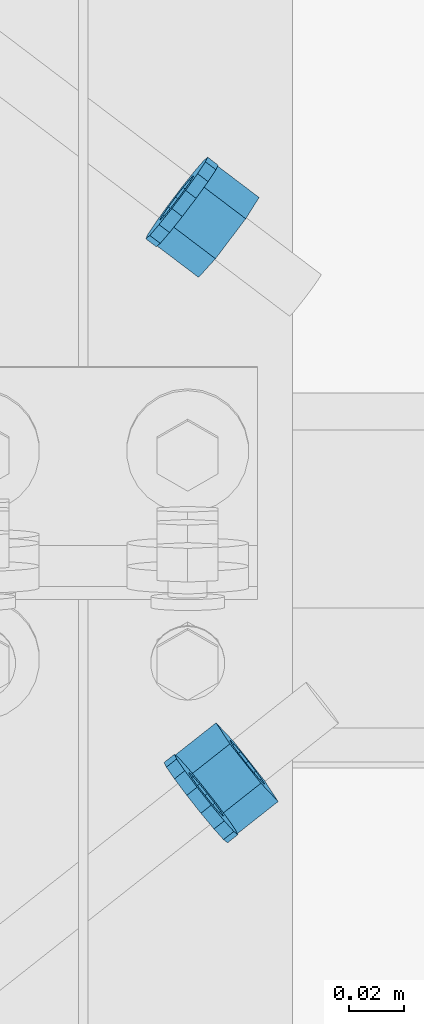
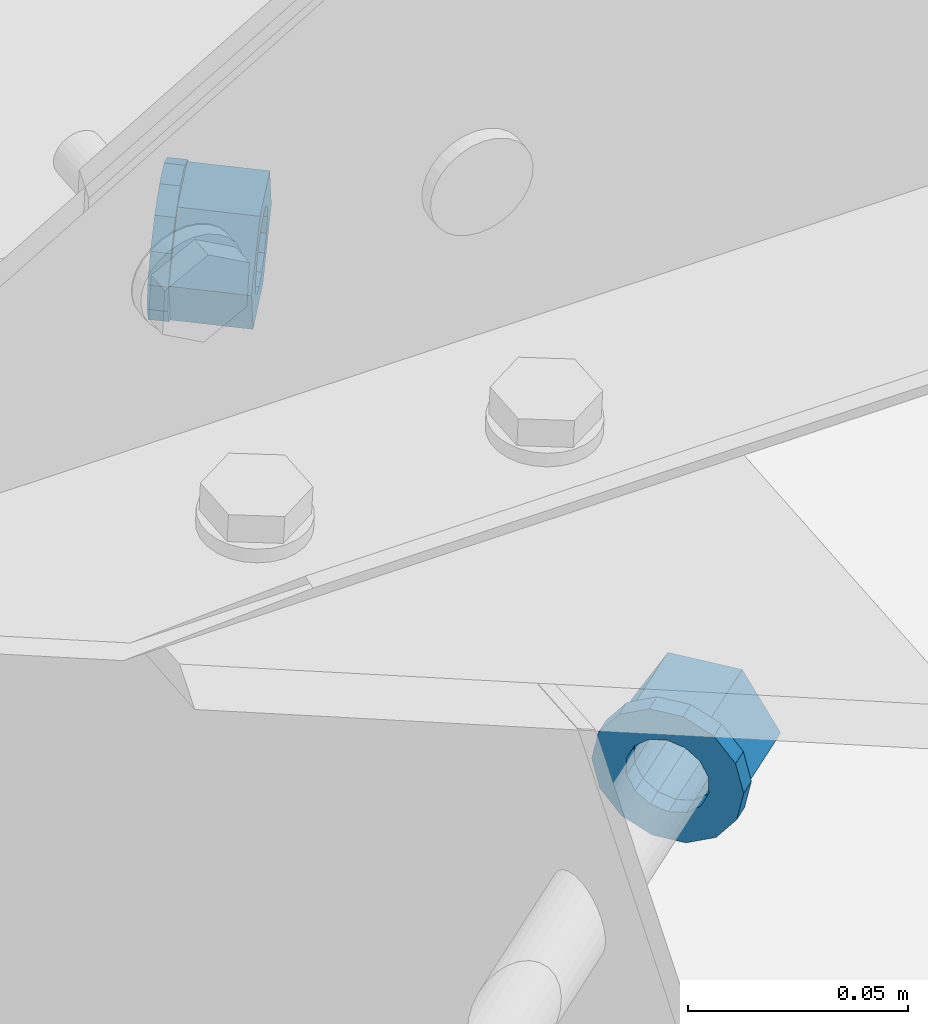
# One storey, part 28 of 185: 4 beams, 4 elements without a shape of their own.
"""IFC2X3 building model written with IfcOpenShell, lengths in millimetres."""

from ifc_helpers import new_model, si_unit, frame, origin_with_axes, place, context, subcontext, project, spatial, polyline, outline, extrude, material, type_object, element, aggregate, save


model = new_model("IFC2X3")

# Units and contexts
model_context = context("Model", 3, precision=1e-05, world=origin_with_axes())
body_context = subcontext(model_context, "Body", "Model", "MODEL_VIEW")
ifc_project = project(units=[si_unit("LENGTHUNIT", "METRE", prefix="MILLI"), si_unit("AREAUNIT", "SQUARE_METRE"), si_unit("VOLUMEUNIT", "CUBIC_METRE"), si_unit("MASSUNIT", "GRAM", prefix="KILO"), si_unit("TIMEUNIT", "SECOND"), si_unit("PLANEANGLEUNIT", "RADIAN"), si_unit("SOLIDANGLEUNIT", "STERADIAN"), si_unit("THERMODYNAMICTEMPERATUREUNIT", "DEGREE_CELSIUS"), si_unit("LUMINOUSINTENSITYUNIT", "LUMEN")], contexts=[model_context])

# Site, building, storey
site_placement = place(None, origin_with_axes())
site = spatial("IfcSite", under=ifc_project, at=site_placement, Name="Undefined", CompositionType="ELEMENT")
building_placement = place(site_placement, origin_with_axes())
building = spatial("IfcBuilding", under=site, at=building_placement, Name="Undefined", CompositionType="ELEMENT")
storey_placement = place(building_placement, origin_with_axes())
storey = spatial("IfcBuildingStorey", under=building, at=storey_placement, Name="Undefined", CompositionType="ELEMENT", Elevation=0.0)

# Assembly, beam
assembly_1_placement = place(storey_placement, origin_with_axes())
assembly_1 = element("IfcElementAssembly", 1, at=assembly_1_placement, inside=storey, Name="Steel Assembly", AssemblyPlace="NOTDEFINED", PredefinedType="RIGID_FRAME")
ifc_material = material(Name="STEEL/55")
beam_type_1 = type_object("IfcBeamType", Name="3/4_HEAVY_HEX_NUT", PredefinedType="NOTDEFINED")
beam_1_placement = place(assembly_1_placement, frame((14896.917223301, 6730.74368511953, 6394.03713567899), z_axis=(-0.0403832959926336, 0.0299079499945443, -0.99873655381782), x_axis=(0.796162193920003, -0.602993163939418, -0.0502494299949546)))
beam_1 = element("IfcBeam", 2, at=beam_1_placement, type_object=beam_type_1, material=ifc_material, Name="3/4 H HEX NUT A563", ObjectType="3/4_HEAVY_HEX_NUT", context=body_context, shape_type="SweptSolid", body=[
    extrude(outline(polyline([(9.13000011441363, -15.810000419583), (-9.13000011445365, -15.810000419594), (-18.2600002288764, 1.54614099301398e-11), (-9.13000011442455, 15.8100004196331), (9.13000011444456, 15.8100004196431), (18.2600002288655, 3.36513039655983e-11), (9.13000011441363, -15.810000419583)]), holes=[polyline([(-8.06850066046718, 6.43441456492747), (-10.061255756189, 2.29641597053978), (-10.0612557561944, -2.29641597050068), (-8.06850066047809, -6.43441456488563), (-4.47768005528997, -9.29799844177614), (-1.09139364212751e-11, -10.3199996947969), (4.47768005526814, -9.29799844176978), (8.0685006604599, -6.43441456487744), (10.0612557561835, -2.29641597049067), (10.0612557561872, 2.2964159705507), (8.06850066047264, 6.43441456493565), (4.47768005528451, 9.29799844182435), (7.27595761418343e-12, 10.319999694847), (-4.47768005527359, 9.2979984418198), (-8.06850066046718, 6.43441456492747)])]), frame((19.0500000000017, 0.0, 2.58175642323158e-19), z_axis=(-1.0, 0.0, 0.0), x_axis=(0.0, -1.0, 0.0)), (0.0, 0.0, 1.0), 19.0),
])
aggregate(assembly_1, [beam_1])

assembly_2_placement = place(storey_placement, origin_with_axes())
assembly_2 = element("IfcElementAssembly", 3, at=assembly_2_placement, inside=storey, Name="Steel Assembly", AssemblyPlace="NOTDEFINED", PredefinedType="RIGID_FRAME")
beam_2_placement = place(assembly_2_placement, frame((14903.8064851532, 6516.37917163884, 6376.17342288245), z_axis=(-0.0397223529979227, -0.0328780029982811, 0.998669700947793), x_axis=(0.784015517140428, 0.618597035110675, 0.0515497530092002)))
beam_2 = element("IfcBeam", 4, at=beam_2_placement, type_object=beam_type_1, material=ifc_material, Name="3/4 H HEX NUT A563", ObjectType="3/4_HEAVY_HEX_NUT", context=body_context, shape_type="SweptSolid", body=[
    extrude(outline(polyline([(9.13000011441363, -15.810000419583), (-9.13000011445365, -15.810000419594), (-18.2600002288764, 1.54614099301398e-11), (-9.13000011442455, 15.8100004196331), (9.13000011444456, 15.8100004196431), (18.2600002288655, 3.36513039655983e-11), (9.13000011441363, -15.810000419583)]), holes=[polyline([(-8.06850066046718, 6.43441456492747), (-10.061255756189, 2.29641597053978), (-10.0612557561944, -2.29641597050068), (-8.06850066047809, -6.43441456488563), (-4.47768005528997, -9.29799844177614), (-1.09139364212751e-11, -10.3199996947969), (4.47768005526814, -9.29799844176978), (8.0685006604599, -6.43441456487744), (10.0612557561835, -2.29641597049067), (10.0612557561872, 2.2964159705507), (8.06850066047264, 6.43441456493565), (4.47768005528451, 9.29799844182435), (7.27595761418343e-12, 10.319999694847), (-4.47768005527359, 9.2979984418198), (-8.06850066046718, 6.43441456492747)])]), frame((19.0500000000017, 0.0, 2.58175642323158e-19), z_axis=(-1.0, 0.0, 0.0), x_axis=(0.0, -1.0, 0.0)), (0.0, 0.0, 1.0), 19.0),
])
aggregate(assembly_2, [beam_2])

assembly_3_placement = place(storey_placement, origin_with_axes())
assembly_3 = element("IfcElementAssembly", 5, at=assembly_3_placement, inside=storey, Name="Steel Assembly", AssemblyPlace="NOTDEFINED", PredefinedType="RIGID_FRAME")
beam_type_2 = type_object("IfcBeamType", Name="3/4_WASHER", PredefinedType="NOTDEFINED")
beam_3_placement = place(assembly_3_placement, frame((14893.1255008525, 6733.61544006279, 6394.27644858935), z_axis=(-0.0403832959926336, 0.0299079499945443, -0.99873655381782), x_axis=(0.796162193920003, -0.602993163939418, -0.0502494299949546)))
beam_3 = element("IfcBeam", 6, at=beam_3_placement, type_object=beam_type_2, material=ifc_material, Name="3/4 WASHER F844", ObjectType="3/4_WASHER", context=body_context, shape_type="SweptSolid", body=[
    extrude(outline(polyline([(-11.6280845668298, -14.5811568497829), (-16.8030690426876, -8.09193156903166), (-18.649999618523, -4.54747350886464e-12), (-16.8030690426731, 8.09193156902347), (-11.6280845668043, 14.5811568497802), (-4.15001533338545, 18.1824051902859), (4.15001533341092, 18.1824051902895), (11.628084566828, 14.5811568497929), (16.8030690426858, 8.09193156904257), (18.6499996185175, 1.45519152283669e-11), (16.8030690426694, -8.09193156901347), (11.6280845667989, -14.5811568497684), (4.15001533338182, -18.182405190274), (-4.15001533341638, -18.1824051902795), (-11.6280845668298, -14.5811568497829)]), holes=[polyline([(-8.06850066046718, 6.43441456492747), (-10.061255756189, 2.29641597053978), (-10.0612557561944, -2.29641597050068), (-8.06850066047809, -6.43441456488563), (-4.47768005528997, -9.29799844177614), (-1.09139364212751e-11, -10.3199996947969), (4.47768005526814, -9.29799844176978), (8.0685006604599, -6.43441456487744), (10.0612557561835, -2.29641597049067), (10.0612557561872, 2.2964159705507), (8.06850066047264, 6.43441456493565), (4.47768005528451, 9.29799844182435), (7.27595761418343e-12, 10.319999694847), (-4.47768005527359, 9.2979984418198), (-8.06850066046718, 6.43441456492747)])]), frame((4.76250000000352, 2.6437185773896e-16, 5.6843418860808e-14), z_axis=(-1.0, 0.0, 0.0), x_axis=(0.0, -1.0, 0.0)), (0.0, 0.0, 1.0), 4.8),
])
aggregate(assembly_3, [beam_3])

assembly_4_placement = place(storey_placement, origin_with_axes())
assembly_4 = element("IfcElementAssembly", 7, at=assembly_4_placement, inside=storey, Name="Steel Assembly", AssemblyPlace="NOTDEFINED", PredefinedType="RIGID_FRAME")
beam_4_placement = place(assembly_4_placement, frame((14900.0726112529, 6513.43310325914, 6375.92791718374), z_axis=(-0.0397223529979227, -0.0328780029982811, 0.998669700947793), x_axis=(0.784015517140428, 0.618597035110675, 0.0515497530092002)))
beam_4 = element("IfcBeam", 8, at=beam_4_placement, type_object=beam_type_2, material=ifc_material, Name="3/4 WASHER F844", ObjectType="3/4_WASHER", context=body_context, shape_type="SweptSolid", body=[
    extrude(outline(polyline([(-11.6280845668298, -14.5811568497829), (-16.8030690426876, -8.09193156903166), (-18.649999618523, -4.54747350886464e-12), (-16.8030690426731, 8.09193156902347), (-11.6280845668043, 14.5811568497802), (-4.15001533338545, 18.1824051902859), (4.15001533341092, 18.1824051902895), (11.628084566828, 14.5811568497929), (16.8030690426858, 8.09193156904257), (18.6499996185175, 1.45519152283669e-11), (16.8030690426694, -8.09193156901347), (11.6280845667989, -14.5811568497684), (4.15001533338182, -18.182405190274), (-4.15001533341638, -18.1824051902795), (-11.6280845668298, -14.5811568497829)]), holes=[polyline([(-8.06850066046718, 6.43441456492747), (-10.061255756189, 2.29641597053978), (-10.0612557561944, -2.29641597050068), (-8.06850066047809, -6.43441456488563), (-4.47768005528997, -9.29799844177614), (-1.09139364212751e-11, -10.3199996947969), (4.47768005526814, -9.29799844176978), (8.0685006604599, -6.43441456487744), (10.0612557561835, -2.29641597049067), (10.0612557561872, 2.2964159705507), (8.06850066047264, 6.43441456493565), (4.47768005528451, 9.29799844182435), (7.27595761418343e-12, 10.319999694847), (-4.47768005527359, 9.2979984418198), (-8.06850066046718, 6.43441456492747)])]), frame((4.76250000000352, 2.6437185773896e-16, 5.6843418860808e-14), z_axis=(-1.0, 0.0, 0.0), x_axis=(0.0, -1.0, 0.0)), (0.0, 0.0, 1.0), 4.8),
])
aggregate(assembly_4, [beam_4])

save(model, "model.ifc")
